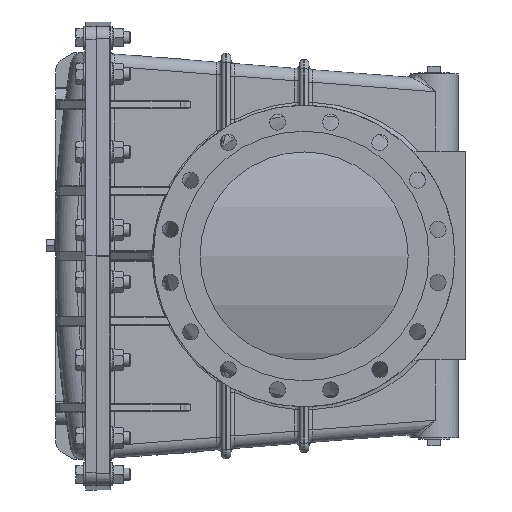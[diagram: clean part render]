
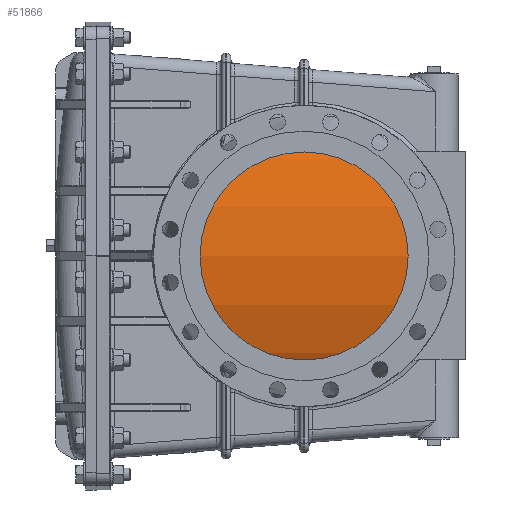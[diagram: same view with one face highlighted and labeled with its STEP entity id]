
A CAD part, left-side view. The second image highlights one B-rep face of the part: STEP entity #51866.
In plain terms, the highlighted cylindrical face has radius 564 mm (diameter 1128 mm), a partial arc.
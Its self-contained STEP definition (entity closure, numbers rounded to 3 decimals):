
#3390=LINE('',#105792,#6885);
#3391=LINE('',#105794,#6886);
#6885=VECTOR('',#67952,10.);
#6886=VECTOR('',#67955,10.);
#10362=CYLINDRICAL_SURFACE('',#56630,564.);
#12831=FACE_OUTER_BOUND('',#16259,.T.);
#16259=EDGE_LOOP('',(#44798,#44799,#44800,#44801));
#20431=CIRCLE('',#56624,564.);
#20432=CIRCLE('',#56627,564.);
#24572=VERTEX_POINT('',#105762);
#24576=VERTEX_POINT('',#105771);
#24579=VERTEX_POINT('',#105781);
#24580=VERTEX_POINT('',#105783);
#31519=EDGE_CURVE('',#24572,#24576,#20431,.T.);
#31524=EDGE_CURVE('',#24580,#24579,#20432,.T.);
#31529=EDGE_CURVE('',#24576,#24580,#3390,.T.);
#31530=EDGE_CURVE('',#24572,#24579,#3391,.T.);
#44798=ORIENTED_EDGE('',*,*,#31519,.T.);
#44799=ORIENTED_EDGE('',*,*,#31529,.T.);
#44800=ORIENTED_EDGE('',*,*,#31524,.T.);
#44801=ORIENTED_EDGE('',*,*,#31530,.F.);
#51866=ADVANCED_FACE('',(#12831),#10362,.T.);
#56624=AXIS2_PLACEMENT_3D('',#105773,#67933,#67934);
#56627=AXIS2_PLACEMENT_3D('',#105784,#67943,#67944);
#56630=AXIS2_PLACEMENT_3D('',#105793,#67953,#67954);
#67933=DIRECTION('center_axis',(0.,0.,1.));
#67934=DIRECTION('ref_axis',(0.486,0.874,0.));
#67943=DIRECTION('center_axis',(0.,0.,-1.));
#67944=DIRECTION('ref_axis',(0.486,0.874,0.));
#67952=DIRECTION('',(0.,0.,1.));
#67953=DIRECTION('center_axis',(0.,0.,1.));
#67954=DIRECTION('ref_axis',(0.486,0.874,0.));
#67955=DIRECTION('',(0.,0.,1.));
#105762=CARTESIAN_POINT('',(273.947,4.,12.));
#105771=CARTESIAN_POINT('',(-273.947,4.,12.));
#105773=CARTESIAN_POINT('Origin',(0.,-489.,12.));
#105781=CARTESIAN_POINT('',(273.947,4.,675.));
#105783=CARTESIAN_POINT('',(-273.947,4.,675.));
#105784=CARTESIAN_POINT('Origin',(0.,-489.,675.));
#105792=CARTESIAN_POINT('',(-273.947,4.,0.));
#105793=CARTESIAN_POINT('Origin',(0.,-489.,0.));
#105794=CARTESIAN_POINT('',(273.947,4.,0.));
